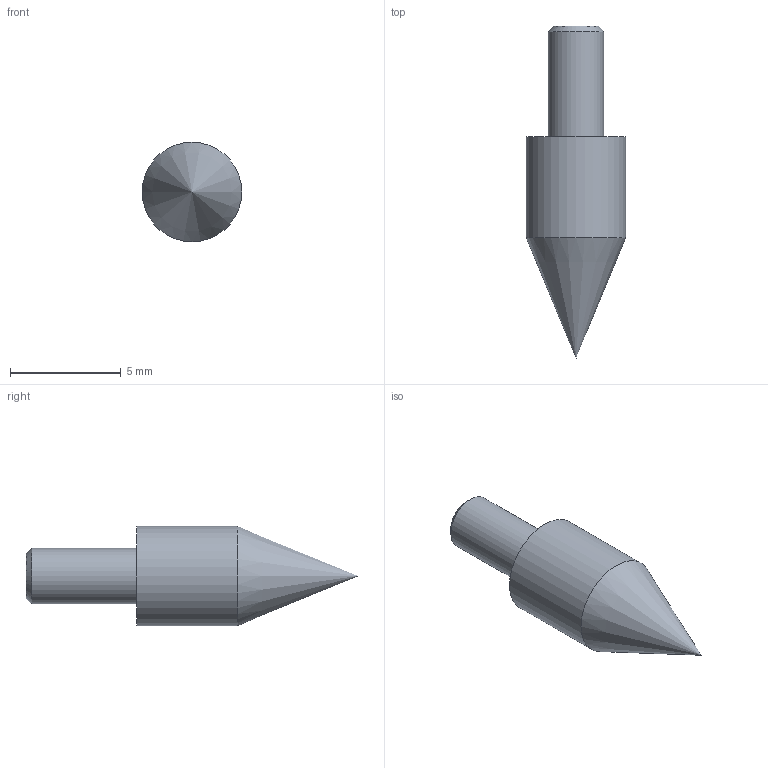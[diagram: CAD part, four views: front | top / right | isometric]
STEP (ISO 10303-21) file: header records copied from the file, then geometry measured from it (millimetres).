
FILE_DESCRIPTION( ( 'STEP AP214' ), '1' );
FILE_NAME( 'N:/Engineering/CAD_Solid/LVDT/Zubehör/Tastkopf_04.stp', '2011-12-12T13:59:33', ( ' ' ), ( ' ' ), 'XStep 1.0', ' ', ' ' );
FILE_SCHEMA( ( 'CONFIG_CONTROL_DESIGN) ( )' ) );
Length unit declared in the file: metre
Products named in the file (1): 1
Bounding box: 4.5 x 15 x 4.5 mm (x, y, z)
Volume: 125.8 mm3; surface area: 160.1 mm2
Topology: 1 solids, 1 shells, 6 faces, 11 edges, 7 vertices
Faces by surface type: plane 2, cone 2, cylinder 2
Full cylindrical faces by diameter (mm): 2.5 x1, 4.5 x1
Entity records: 182 total; most frequent: DIRECTION 24, CARTESIAN_POINT 18, AXIS2_PLACEMENT_3D 12, EDGE_LOOP 10, ORIENTED_EDGE 10, FACE_OUTER_BOUND 8, STYLED_ITEM 6, PRESENTATION_STYLE_ASSIGNMENT 6
